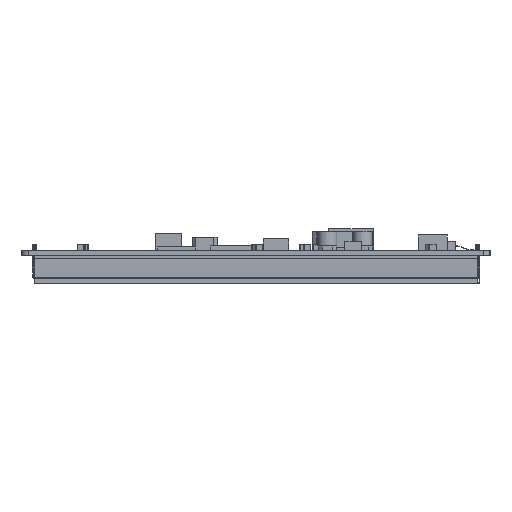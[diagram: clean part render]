
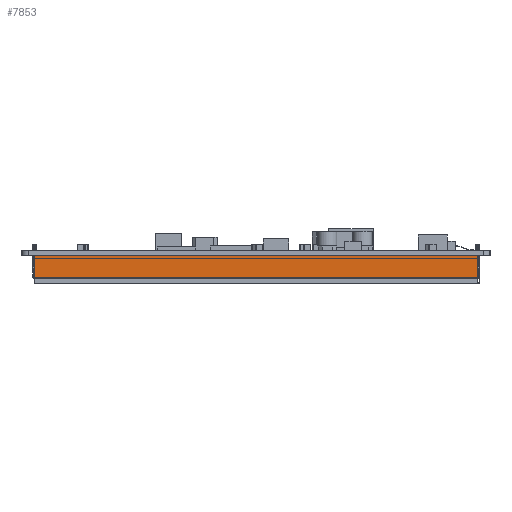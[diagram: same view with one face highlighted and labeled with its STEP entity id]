
A CAD part, left-side view. The second image highlights one B-rep face of the part: STEP entity #7853.
In plain terms, the highlighted planar face has unit normal (-1, 0, 0).
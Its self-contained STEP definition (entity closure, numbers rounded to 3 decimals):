
#7853=ADVANCED_FACE('',(#12336),#10134,.F.);
#10134=PLANE('',#43783);
#12336=FACE_OUTER_BOUND('',#14690,.T.);
#14690=EDGE_LOOP('',(#22800,#22801,#22802,#22803));
#22800=ORIENTED_EDGE('',*,*,#31829,.F.);
#22801=ORIENTED_EDGE('',*,*,#31830,.T.);
#22802=ORIENTED_EDGE('',*,*,#31831,.T.);
#22803=ORIENTED_EDGE('',*,*,#31832,.T.);
#27338=VERTEX_POINT('',#62602);
#27339=VERTEX_POINT('',#62603);
#27340=VERTEX_POINT('',#62605);
#27341=VERTEX_POINT('',#62607);
#31829=EDGE_CURVE('',#27338,#27339,#36564,.T.);
#31830=EDGE_CURVE('',#27338,#27340,#36565,.T.);
#31831=EDGE_CURVE('',#27340,#27341,#36566,.T.);
#31832=EDGE_CURVE('',#27341,#27339,#36567,.T.);
#36564=LINE('',#62601,#41089);
#36565=LINE('',#62604,#41090);
#36566=LINE('',#62606,#41091);
#36567=LINE('',#62608,#41092);
#41089=VECTOR('',#51961,1.);
#41090=VECTOR('',#51962,1.);
#41091=VECTOR('',#51963,1.);
#41092=VECTOR('',#51964,1.);
#43783=AXIS2_PLACEMENT_3D('',#62609,#51965,#51966);
#51961=DIRECTION('',(0.,0.,1.));
#51962=DIRECTION('',(0.,-1.,0.));
#51963=DIRECTION('',(0.,0.,1.));
#51964=DIRECTION('',(0.,1.,0.));
#51965=DIRECTION('',(1.,0.,0.));
#51966=DIRECTION('',(0.,1.,0.));
#62601=CARTESIAN_POINT('',(-84.85,74.48,-8.8));
#62602=CARTESIAN_POINT('',(-84.85,74.48,-8.4));
#62603=CARTESIAN_POINT('',(-84.85,74.48,-1.6));
#62604=CARTESIAN_POINT('',(-84.85,-66.52,-8.4));
#62605=CARTESIAN_POINT('',(-84.85,-66.52,-8.4));
#62606=CARTESIAN_POINT('',(-84.85,-66.52,-8.8));
#62607=CARTESIAN_POINT('',(-84.85,-66.52,-1.6));
#62608=CARTESIAN_POINT('',(-84.85,-66.52,-1.6));
#62609=CARTESIAN_POINT('',(-84.85,-66.52,-8.8));
